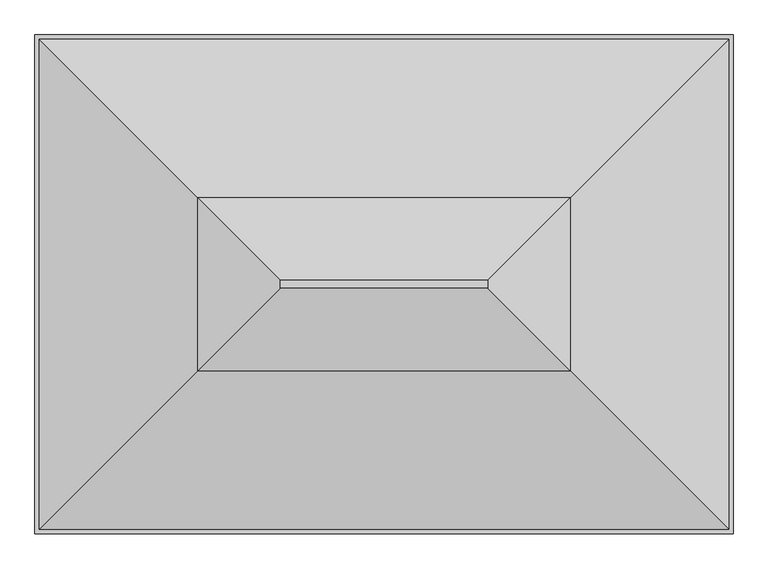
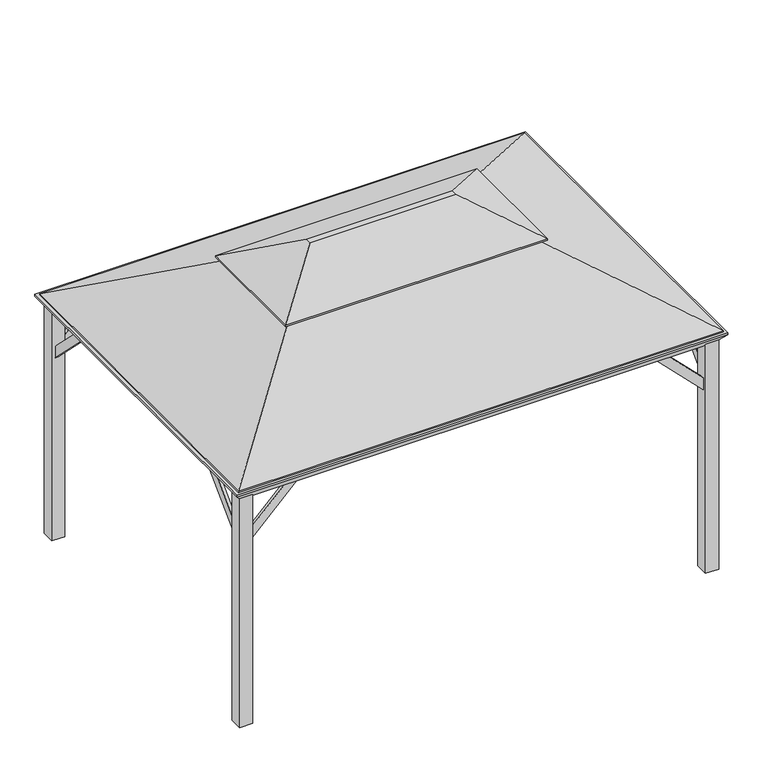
"""IFC4 building model written with IfcOpenShell, lengths in millimetres: proxy geometry."""

from ifc_helpers import new_model, si_unit, frame, origin, place, context, project, spatial, polyline, outline, extrude, faceted_brep, source, transform, mapped, element, save


def generic_models_d0a8d090(model_context):
    return source(origin(), model_context, "Body", "SolidModel", [
        extrude(outline(polyline([(1670.2369265, -1968.5), (2082.8, -1555.9369265), (2082.8, -1663.7), (1778.0, -1968.5), (1670.2369265, -1968.5)])), frame((0.0, -1441.45, 0.0), z_axis=(0.0, 1.0, 0.0), x_axis=(0.0, 0.0, 1.0)), (0.0, 0.0, 1.0), 25.4),
        extrude(outline(polyline([(1670.2369265, 1968.5), (1778.0, 1968.5), (2082.8, 1663.7), (2082.8, 1555.9369265), (1670.2369265, 1968.5)])), frame((0.0, -1441.45, 0.0), z_axis=(0.0, 1.0, 0.0), x_axis=(0.0, 0.0, 1.0)), (0.0, 0.0, 1.0), 25.4),
        extrude(outline(polyline([(1670.2369265, -1968.5), (2082.8, -1555.9369265), (2082.8, -1663.7), (1778.0, -1968.5), (1670.2369265, -1968.5)])), frame((0.0, 1416.05, 0.0), z_axis=(0.0, 1.0, 0.0), x_axis=(0.0, 0.0, 1.0)), (0.0, 0.0, 1.0), 25.4),
        extrude(outline(polyline([(1670.2369265, 1968.5), (1778.0, 1968.5), (2082.8, 1663.7), (2082.8, 1555.9369265), (1670.2369265, 1968.5)])), frame((0.0, 1416.05, 0.0), z_axis=(0.0, 1.0, 0.0), x_axis=(0.0, 0.0, 1.0)), (0.0, 0.0, 1.0), 25.4),
        extrude(outline(polyline([(1358.9, 1670.2369265), (946.3369265, 2082.8), (1054.1, 2082.8), (1358.9, 1778.0), (1358.9, 1670.2369265)])), frame((2025.65, 0.0, 0.0), z_axis=(1.0, 0.0, 0.0), x_axis=(0.0, 1.0, 0.0)), (0.0, 0.0, 1.0), 25.4),
        extrude(outline(polyline([(-1358.9, 1670.2369265), (-1358.9, 1778.0), (-1054.1, 2082.8), (-946.3369265, 2082.8), (-1358.9, 1670.2369265)])), frame((2025.65, 0.0, 0.0), z_axis=(1.0, 0.0, 0.0), x_axis=(0.0, 1.0, 0.0)), (0.0, 0.0, 1.0), 25.4),
        extrude(outline(polyline([(1358.9, 1670.2369265), (946.3369265, 2082.8), (1054.1, 2082.8), (1358.9, 1778.0), (1358.9, 1670.2369265)])), frame((-2051.05, 0.0, 0.0), z_axis=(1.0, 0.0, 0.0), x_axis=(0.0, 1.0, 0.0)), (0.0, 0.0, 1.0), 25.4),
        extrude(outline(polyline([(-1358.9, 1670.2369265), (-1358.9, 1778.0), (-1054.1, 2082.8), (-946.3369265, 2082.8), (-1358.9, 1670.2369265)])), frame((-2051.05, 0.0, 0.0), z_axis=(1.0, 0.0, 0.0), x_axis=(0.0, 1.0, 0.0)), (0.0, 0.0, 1.0), 25.4),
        faceted_brep([(2133.6, -1524.0, 2184.4), (2133.6, 1524.0, 2184.4), (-2133.6, 1524.0, 2184.4), (-2133.6, -1524.0, 2184.4), (1968.5, 1358.9, 2184.4), (2025.65, 1358.9, 2184.4), (2025.65, -1358.9, 2184.4), (1968.5, -1358.9, 2184.4), (1968.5, -1416.05, 2184.4), (-1968.5, -1416.05, 2184.4), (-1968.5, -1358.9, 2184.4), (-2025.65, -1358.9, 2184.4), (-2025.65, 1358.9, 2184.4), (-1968.5, 1358.9, 2184.4), (-1968.5, 1416.05, 2184.4), (1968.5, 1416.05, 2184.4), (1968.5, 1358.9, 0.0), (1968.5, 1473.2, 0.0), (2082.8, 1473.2, 0.0), (2082.8, 1358.9, 0.0), (2082.8, 1358.9, 2105.3136364), (2063.75, 1358.9, 2082.8), (2025.65, 1358.9, 2082.8), (2082.8, 1473.2, 2105.3136364), (1968.5, 1473.2, 2105.3136364), (1968.5, 1416.05, 2082.8), (1968.5, 1454.15, 2082.8), (2063.75, -1358.9, 2082.8), (2025.65, -1358.9, 2082.8), (-1968.5, 1416.05, 2082.8), (-1968.5, 1454.15, 2082.8), (1968.5, -1416.05, 2082.8), (1968.5, -1454.15, 2082.8), (-1968.5, -1454.15, 2082.8), (-1968.5, -1416.05, 2082.8), (-2025.65, -1358.9, 2082.8), (-2063.75, -1358.9, 2082.8), (-2063.75, 1358.9, 2082.8), (-2025.65, 1358.9, 2082.8), (2133.6, 1524.0, 2165.35), (2133.6, -1524.0, 2165.35), (-2133.6, -1524.0, 2165.35), (-2133.6, 1524.0, 2165.35), (2082.8, -1358.9, 0.0), (2082.8, -1473.2, 0.0), (1968.5, -1473.2, 0.0), (1968.5, -1358.9, 0.0), (2082.8, -1358.9, 2105.3136364), (1968.5, -1473.2, 2105.3136364), (2082.8, -1473.2, 2105.3136364), (-1968.5, -1358.9, 0.0), (-1968.5, -1473.2, 0.0), (-2082.8, -1473.2, 0.0), (-2082.8, -1358.9, 0.0), (-2082.8, -1358.9, 2105.3136364), (-2082.8, -1473.2, 2105.3136364), (-1968.5, -1473.2, 2105.3136364), (-2082.8, 1358.9, 0.0), (-2082.8, 1473.2, 0.0), (-1968.5, 1473.2, 0.0), (-1968.5, 1358.9, 0.0), (-2082.8, 1358.9, 2105.3136364), (-1968.5, 1473.2, 2105.3136364), (-2082.8, 1473.2, 2105.3136364)], [[[0, 1, 2, 3], [4, 5, 6, 7, 8, 9, 10, 11, 12, 13, 14, 15]], [[16, 17, 18, 19]], [[16, 19, 20, 21, 22, 5, 4]], [[19, 18, 23, 20]], [[18, 17, 24, 23]], [[17, 16, 4, 15, 25, 26, 24]], [[22, 21, 27, 28]], [[26, 25, 29, 30]], [[31, 32, 33, 34]], [[35, 36, 37, 38]], [[25, 15, 14, 29]], [[39, 1, 0, 40]], [[40, 0, 3, 41]], [[41, 3, 2, 42]], [[1, 39, 42, 2]], [[43, 44, 45, 46]], [[43, 46, 7, 6, 28, 27, 47]], [[46, 45, 48, 32, 31, 8, 7]], [[45, 44, 49, 48]], [[44, 43, 47, 49]], [[50, 51, 52, 53]], [[50, 53, 54, 36, 35, 11, 10]], [[53, 52, 55, 54]], [[52, 51, 56, 55]], [[51, 50, 10, 9, 34, 33, 56]], [[57, 58, 59, 60]], [[57, 60, 13, 12, 38, 37, 61]], [[60, 59, 62, 30, 29, 14, 13]], [[59, 58, 63, 62]], [[58, 57, 61, 63]], [[5, 22, 28, 6]], [[8, 31, 34, 9]], [[11, 35, 38, 12]], [[39, 40, 49, 47, 27, 21, 20, 23]], [[40, 41, 55, 56, 33, 32, 48, 49]], [[41, 42, 63, 61, 37, 36, 54, 55]], [[42, 39, 23, 24, 26, 30, 62, 63]]]),
        faceted_brep([(634.9941406, 25.3941406, 3073.4), (-634.9941406, 25.3941406, 3073.4), (-634.9941406, -25.3941406, 3073.4), (634.9941406, -25.3941406, 3073.4), (-1137.9141406, 528.3141406, 2794.0), (-1137.9141406, -528.3141406, 2794.0), (1137.9141406, -528.3141406, 2794.0), (1137.9141406, 528.3141406, 2794.0), (1137.9141406, 528.3141406, 2781.3), (1137.9141406, -528.3141406, 2781.3), (-1137.9141406, -528.3141406, 2781.3), (-1137.9141406, 528.3141406, 2781.3), (634.9941406, 25.3941406, 3060.7), (634.9941406, -25.3941406, 3060.7), (-634.9941406, -25.3941406, 3060.7), (-634.9941406, 25.3941406, 3060.7)], [[[0, 1, 2, 3]], [[2, 1, 4, 5]], [[0, 3, 6, 7]], [[8, 7, 6, 9]], [[9, 6, 5, 10]], [[10, 5, 4, 11]], [[7, 8, 11, 4]], [[12, 13, 14, 15]], [[15, 14, 10, 11]], [[13, 12, 8, 9]], [[1, 0, 7, 4]], [[3, 2, 5, 6]], [[12, 15, 11, 8]], [[14, 13, 9, 10]]]),
        faceted_brep([(-2108.1941406, 1498.5941406, 2197.1), (-1010.9141406, 401.3141406, 2806.7), (1010.9141406, 401.3141406, 2806.7), (2108.1941406, 1498.5941406, 2197.1), (-2108.1941406, -1498.5941406, 2197.1), (-1010.9141406, -401.3141406, 2806.7), (2108.1941406, -1498.5941406, 2197.1), (1010.9141406, -401.3141406, 2806.7), (2108.1941406, 1498.5941406, 2184.4), (2108.1941406, -1498.5941406, 2184.4), (-2108.1941406, -1498.5941406, 2184.4), (-2108.1941406, 1498.5941406, 2184.4), (1010.9141406, 401.3141406, 2794.0), (-1010.9141406, 401.3141406, 2794.0), (-1010.9141406, -401.3141406, 2794.0), (1010.9141406, -401.3141406, 2794.0)], [[[0, 1, 2, 3]], [[1, 0, 4, 5]], [[5, 4, 6, 7]], [[3, 2, 7, 6]], [[8, 3, 6, 9]], [[9, 6, 4, 10]], [[10, 4, 0, 11]], [[3, 8, 11, 0]], [[8, 12, 13, 11]], [[11, 13, 14, 10]], [[10, 14, 15, 9]], [[12, 8, 9, 15]], [[7, 2, 12, 15]], [[5, 7, 15, 14]], [[1, 5, 14, 13]], [[2, 1, 13, 12]]]),
    ])


if __name__ == "__main__":
    model = new_model("IFC4")
    model_context = context("Model", 3, world=origin())
    ifc_project = project(units=[si_unit("LENGTHUNIT", "METRE", prefix="MILLI")], contexts=[model_context])
    site = spatial("IfcSite", under=ifc_project)
    building = spatial("IfcBuilding", under=site)
    placement = place(None, origin())
    generic_models_shape = generic_models_d0a8d090(model_context)
    element("IfcBuildingElementProxy", 1, Name="Gazebo : 14'-0\" x 10'-0\" (Braces)", ObjectType="Gazebo : 14'-0\" x 10'-0\" (Braces)", at=placement, inside=building, context=model_context, shape_type="MappedRepresentation", body=[
        mapped(generic_models_shape, transform((0.0, 0.0, 0.0), x_axis=(1.0, 0.0, 0.0), y_axis=(0.0, 1.0, 0.0), z_axis=(0.0, 0.0, 1.0))),
    ])
    save(model, "model.ifc")
